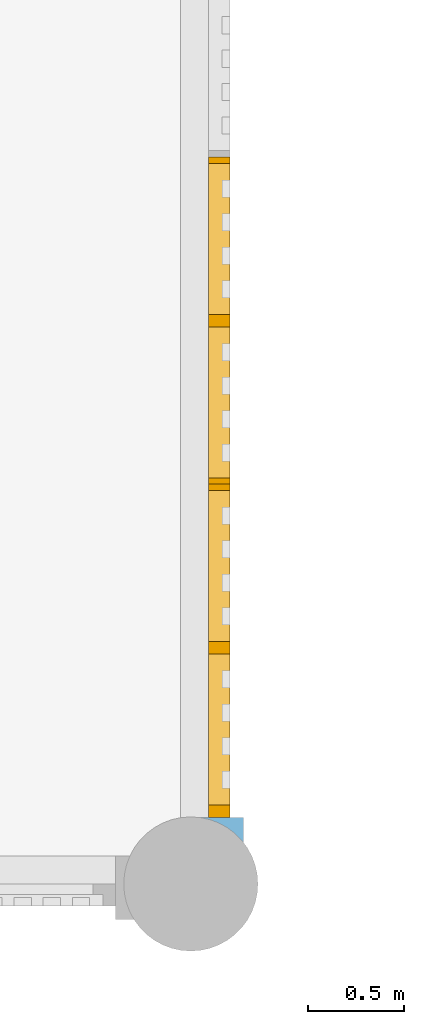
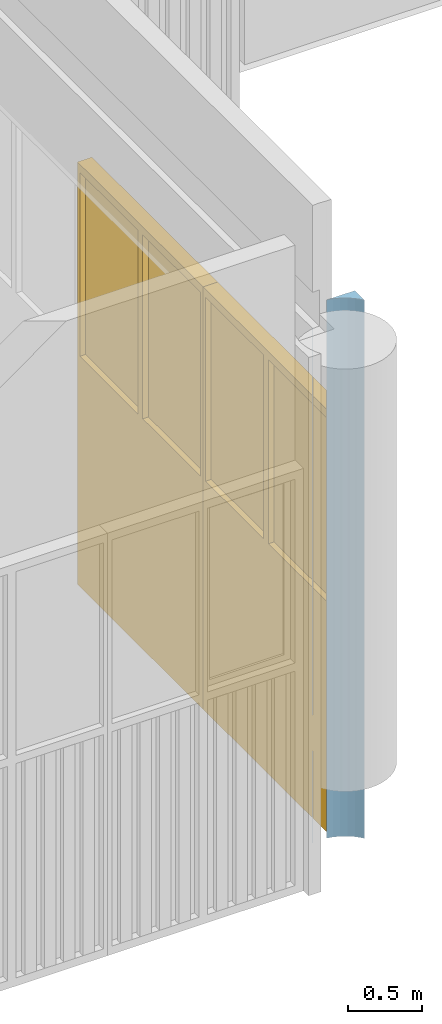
# One storey, part 56 of 117: 2 windows, 3 openings, plus 1 element that does not belong to this part.
"""IFC2X3 building model written with IfcOpenShell, lengths in millimetres."""

import ifcopenshell
import ifcopenshell.guid

model = None  # the IFC model being written
_history = None  # IfcOwnerHistory: only IFC2X3 demands one
_inside = {}  # id of a spatial element -> (the spatial element, [elements in it])
_under = {}  # id of a project, library or spatial element -> (it, [spatial elements below it])
_declared = {}  # id of a project -> (the project, [libraries it declares])
_typed = {}  # id of a type object -> (the type object, [elements of that type])
_made_of = {}  # id of a material, layer set ... -> (it, [elements and type objects made of it])


def new_model(schema):
    """Start an empty IFC model of exactly this schema.

    Asked for "IFC4X3", IfcOpenShell would pick the latest addendum, in which some entities
    have other attributes; the version numbers below select the first issue.
    IFC2X3 requires an IfcOwnerHistory on every rooted entity: one is made here for all.
    """
    global model, _history
    if schema == "IFC4X3":
        model = ifcopenshell.file(schema_version=(4, 3, 0, 0))
    else:
        model = ifcopenshell.file(schema=schema)
    _inside.clear()
    _under.clear()
    _declared.clear()
    _typed.clear()
    _made_of.clear()
    _history = None
    if model.schema == "IFC2X3":
        org = make("IfcOrganization", Name="unknown")
        user = make(
            "IfcPersonAndOrganization",
            ThePerson=make("IfcPerson", FamilyName="unknown"),
            TheOrganization=org,
        )
        app = make(
            "IfcApplication",
            ApplicationDeveloper=org,
            Version="unknown",
            ApplicationFullName="unknown",
            ApplicationIdentifier="unknown",
        )
        _history = make(
            "IfcOwnerHistory",
            OwningUser=user,
            OwningApplication=app,
            ChangeAction="ADDED",
            CreationDate=0,
        )
    return model


def make(cls, **values):
    """One entity of the class cls with the attributes given. An attribute that is None is left unset."""
    return model.create_entity(
        cls, **{name: value for name, value in values.items() if value is not None}
    )


def entity(cls, *values):
    """Any entity or typed value of the class cls, its attributes in the order of the schema. None: left unset."""
    e = model.create_entity(cls)
    for i, value in enumerate(values):
        if value is not None:
            e[i] = value
    return e


def rooted(cls, **values):
    """An entity with a GlobalId (a new one), such as an element, a storey or a relation."""
    return make(cls, GlobalId=ifcopenshell.guid.new(), OwnerHistory=_history, **values)


def si_unit(unit_type, name, prefix=None):
    """IfcSIUnit, for example si_unit("LENGTHUNIT", "METRE", prefix="MILLI")."""
    return make("IfcSIUnit", UnitType=unit_type, Prefix=prefix, Name=name)


def converted_unit(unit_type, name, factor, base, dimensions=None, offset=None):
    """IfcConversionBasedUnit, such as the inch: factor (a typed value) times the base unit."""
    return make(
        "IfcConversionBasedUnit"
        if offset is None
        else "IfcConversionBasedUnitWithOffset",
        ConversionOffset=offset,
        Dimensions=None
        if dimensions is None
        else entity("IfcDimensionalExponents", *dimensions),
        UnitType=unit_type,
        Name=name,
        ConversionFactor=make(
            "IfcMeasureWithUnit", ValueComponent=factor, UnitComponent=base
        ),
    )


def derived_unit(unit_type, elements):
    """IfcDerivedUnit: a product of units, each with its exponent."""
    return make(
        "IfcDerivedUnit",
        Elements=[
            make("IfcDerivedUnitElement", Unit=unit, Exponent=power)
            for unit, power in elements
        ],
        UnitType=unit_type,
    )


def money_unit(currency):
    """IfcMonetaryUnit."""
    return make("IfcMonetaryUnit", Currency=currency)


def assignment(units):
    """IfcUnitAssignment: the units of a project."""
    return None if units is None else make("IfcUnitAssignment", Units=units)


def point(xyz):
    """IfcCartesianPoint."""
    return None if xyz is None else make("IfcCartesianPoint", Coordinates=xyz)


def direction(xyz):
    """IfcDirection."""
    return None if xyz is None else make("IfcDirection", DirectionRatios=xyz)


def frame(location, z_axis=None, x_axis=None):
    """IfcAxis2Placement3D, a coordinate frame: its origin and axes. An axis left out is left unset."""
    return make(
        "IfcAxis2Placement3D",
        Location=point(location),
        Axis=direction(z_axis),
        RefDirection=direction(x_axis),
    )


def origin_with_axes():
    """The frame at (0, 0, 0) with the z axis (0, 0, 1) and the x axis (1, 0, 0) written out."""
    return frame((0.0, 0.0, 0.0), z_axis=(0.0, 0.0, 1.0), x_axis=(1.0, 0.0, 0.0))


def place(relative_to, where):
    """IfcLocalPlacement: puts the frame where relative to a parent placement (None: the world)."""
    return make(
        "IfcLocalPlacement", PlacementRelTo=relative_to, RelativePlacement=where
    )


def context(
    kind, dimensions, precision=None, world=None, true_north=None, identifier=None
):
    """IfcGeometricRepresentationContext, for example the 3D "Model" context."""
    return make(
        "IfcGeometricRepresentationContext",
        ContextIdentifier=identifier,
        ContextType=kind,
        CoordinateSpaceDimension=dimensions,
        Precision=precision,
        WorldCoordinateSystem=world,
        TrueNorth=true_north,
    )


def subcontext(parent, identifier, kind, view, scale=None):
    """IfcGeometricRepresentationSubContext, for example "Body" below "Model"."""
    return make(
        "IfcGeometricRepresentationSubContext",
        ContextIdentifier=identifier,
        ContextType=kind,
        ParentContext=parent,
        TargetScale=scale,
        TargetView=view,
    )


def project(units=None, contexts=None):
    """IfcProject with its units and contexts."""
    return rooted(
        "IfcProject",
        Name="project",
        RepresentationContexts=contexts,
        UnitsInContext=assignment(units),
    )


def spatial(cls, under=None, at=None, **own):
    """A site, building, storey or space (cls), placed at a placement, below another one or the project."""
    s = rooted(cls, ObjectPlacement=at, **own)
    if under is not None:
        _under.setdefault(under.id(), (under, []))[1].append(s)
    return s


def faces_of(points, faces, orient=None, outer=None):
    """IfcFace entities. A face is a list of loops; a loop is a list of indices into points, from 0.

    orient and outer hold one flag for each loop. By default every Orientation is true, the
    first loop of a face is its IfcFaceOuterBound and the others are IfcFaceBound.
    """
    made = []
    for i, loops in enumerate(faces):
        bounds = []
        for j, loop in enumerate(loops):
            is_outer = j == 0 if outer is None else outer[i][j]
            bounds.append(
                make(
                    "IfcFaceOuterBound" if is_outer else "IfcFaceBound",
                    Bound=make("IfcPolyLoop", Polygon=[points[k] for k in loop]),
                    Orientation=True if orient is None else orient[i][j],
                )
            )
        made.append(make("IfcFace", Bounds=bounds))
    return made


def open_shell(faces, orient=None, outer=None):
    """The faces of one IfcOpenShell. surface_model builds it on its shared points."""
    return ("IfcOpenShell", faces, orient, outer)


def faceted_brep(points, faces, orient=None, outer=None, voids=None):
    """IfcFacetedBrep: a solid bounded by flat faces; with voids (closed shells), ...WithVoids."""
    shared = [point(p) for p in points]
    hull = make("IfcClosedShell", CfsFaces=faces_of(shared, faces, orient, outer))
    if voids is None:
        return make("IfcFacetedBrep", Outer=hull)
    return make(
        "IfcFacetedBrepWithVoids",
        Outer=hull,
        Voids=[
            make(cls, CfsFaces=faces_of(shared, fs, o, b)) for cls, fs, o, b in voids
        ],
    )


def surface_model(cls, points, shells):
    """IfcFaceBasedSurfaceModel or IfcShellBasedSurfaceModel (cls): surfaces that need not close."""
    shared = [point(p) for p in points]
    made = [make(c, CfsFaces=faces_of(shared, fs, o, b)) for c, fs, o, b in shells]
    if cls == "IfcFaceBasedSurfaceModel":
        return make(cls, FbsmFaces=made)
    return make(cls, SbsmBoundary=made)


def shape(context_of_items, identifier, shape_type, items):
    """IfcShapeRepresentation: the items that make up one representation, for example the "Body"."""
    return make(
        "IfcShapeRepresentation",
        ContextOfItems=context_of_items,
        RepresentationIdentifier=identifier,
        RepresentationType=shape_type,
        Items=items,
    )


def material(Name=None, Category=None):
    """IfcMaterial."""
    return make("IfcMaterial", Name=Name, Category=Category)


def made_of(thing, what):
    """Note that an element or type object is made of a material, layer set ...; save() writes the relation."""
    if what is not None:
        _made_of.setdefault(what.id(), (what, []))[1].append(thing)
    return thing


def type_object(cls, material=None, **own):
    """A type object (cls), such as IfcWallType, which elements share."""
    return made_of(rooted(cls, **own), material)


def element(
    cls,
    number,
    at=None,
    inside=None,
    cuts=None,
    type_object=None,
    material=None,
    context=None,
    identifier="Body",
    shape_type=None,
    held_by="IfcProductDefinitionShape",
    body=None,
    shapes=None,
    **own,
):
    """One element of the class cls, such as IfcWall. Its Tag is "e" and its number.

    at: its placement. inside: the storey or other place that contains it. cuts: it is an
    opening in that element (IfcRelVoidsElement). A single representation is given by context,
    identifier, shape_type and body (its items); several are given by shapes. held_by: the class
    of the entity that holds the representations. save() writes the other relations.
    """
    e = rooted(cls, Tag="e%d" % number, ObjectPlacement=at, **own)
    if body is not None:
        shapes = [shape(context, identifier, shape_type, body)]
    if shapes is not None:
        e.Representation = make(held_by, Representations=shapes)
    if inside is not None:
        _inside.setdefault(inside.id(), (inside, []))[1].append(e)
    if cuts is not None:
        rooted(
            "IfcRelVoidsElement", RelatingBuildingElement=cuts, RelatedOpeningElement=e
        )
    if type_object is not None:
        _typed.setdefault(type_object.id(), (type_object, []))[1].append(e)
    return made_of(e, material)


def fill(opening, filler):
    """IfcRelFillsElement: the door or window that sits in an opening."""
    return rooted(
        "IfcRelFillsElement",
        RelatingOpeningElement=opening,
        RelatedBuildingElement=filler,
    )


def aggregate(whole, parts):
    """IfcRelAggregates: a whole, such as a stair, and the parts it consists of."""
    return rooted("IfcRelAggregates", RelatingObject=whole, RelatedObjects=parts)


def save(model, path):
    """Write the relations noted so far, then the file.

    IfcRelAggregates (storeys below a building ...), IfcRelContainedInSpatialStructure (elements
    in a storey), IfcRelDefinesByType, IfcRelAssociatesMaterial and IfcRelDeclares: one each for
    every whole, place, type object, material and project.
    """
    for whole, parts in _under.values():
        aggregate(whole, parts)
    for where, things in _inside.values():
        rooted(
            "IfcRelContainedInSpatialStructure",
            RelatedElements=things,
            RelatingStructure=where,
        )
    for kind, things in _typed.values():
        rooted("IfcRelDefinesByType", RelatedObjects=things, RelatingType=kind)
    for what, things in _made_of.values():
        rooted("IfcRelAssociatesMaterial", RelatedObjects=things, RelatingMaterial=what)
    for by, libraries in _declared.values():
        rooted("IfcRelDeclares", RelatingContext=by, RelatedDefinitions=libraries)
    model.write(path)


model = new_model("IFC2X3")

# Units and contexts
model_context = context("Model", 3, precision=0.01, world=origin_with_axes(), true_north=direction((0.0, 1.0)))
body_context = subcontext(model_context, "Body", "Model", "MODEL_VIEW")
ifc_project = project(units=[si_unit("LENGTHUNIT", "METRE", prefix="MILLI"), si_unit("AREAUNIT", "SQUARE_METRE"), si_unit("VOLUMEUNIT", "CUBIC_METRE"), converted_unit("PLANEANGLEUNIT", "DEGREE", entity("IfcPlaneAngleMeasure", 0.0174532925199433), si_unit("PLANEANGLEUNIT", "RADIAN"), dimensions=[0, 0, 0, 0, 0, 0, 0]), money_unit("EUR"), converted_unit("TIMEUNIT", "Year", entity("IfcTimeMeasure", 31557600.0), si_unit("TIMEUNIT", "SECOND"), dimensions=[0, 0, 1, 0, 0, 0, 0]), si_unit("MASSUNIT", "GRAM", prefix="KILO"), si_unit("THERMODYNAMICTEMPERATUREUNIT", "DEGREE_CELSIUS"), si_unit("LUMINOUSINTENSITYUNIT", "LUMEN"), si_unit("ENERGYUNIT", "JOULE", prefix="MEGA"), derived_unit("THERMALCONDUCTANCEUNIT", [(si_unit("POWERUNIT", "WATT"), 1), (si_unit("LENGTHUNIT", "METRE"), -1), (si_unit("THERMODYNAMICTEMPERATUREUNIT", "KELVIN"), -1)]), derived_unit("SPECIFICHEATCAPACITYUNIT", [(si_unit("ENERGYUNIT", "JOULE"), 1), (si_unit("MASSUNIT", "GRAM", prefix="KILO"), -1), (si_unit("THERMODYNAMICTEMPERATUREUNIT", "KELVIN"), -1)]), derived_unit("MASSDENSITYUNIT", [(si_unit("MASSUNIT", "GRAM", prefix="KILO"), 1), (si_unit("VOLUMEUNIT", "CUBIC_METRE"), -1)])], contexts=[model_context])

# Site, building, storey
site_placement = place(None, origin_with_axes())
site = spatial("IfcSite", under=ifc_project, at=site_placement, Name="Site", CompositionType="ELEMENT")
building_placement = place(site_placement, origin_with_axes())
building = spatial("IfcBuilding", under=site, at=building_placement, Name="Naam gebouw", CompositionType="ELEMENT")
storey_placement = place(building_placement, frame((0.0, 0.0, 4150.0), z_axis=(0.0, 0.0, 1.0), x_axis=(1.0, 0.0, 0.0)))
storey = spatial("IfcBuildingStorey", under=building, at=storey_placement, Name="1e verdieping N", CompositionType="ELEMENT", Elevation=4150.0)

# Wall, openings, windows
ifc_material = material(Name="ALG - CONSTRUCTIEF")
wall_type = type_object("IfcWallType", Name="ALG - CONSTRUCTIEF 330", PredefinedType="NOTDEFINED")
wall_placement = place(storey_placement, frame((32345.47026007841, 9677.805369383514, -1060.000000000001), z_axis=(0.0, 0.0, 1.0), x_axis=(0.0, -1.0, 0.0)))
wall = element("IfcWall", 1, at=wall_placement, inside=storey, type_object=wall_type, material=ifc_material, Name="_Wand-x", context=body_context, shape_type="Brep", body=[
    faceted_brep([(6031.855679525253, 1.449080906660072, 0.0), (6031.855679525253, 1.449080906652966, 760.0000000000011), (6032.170907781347, 0.0, 760.0000000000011), (6032.170907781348, 0.0, 0.0), (6031.855679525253, 0.0, 760.0000000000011), (6031.855679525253, 0.0, 0.0)], [[[0, 1, 2, 3]], [[4, 1, 0, 5]], [[1, 4, 2]], [[4, 5, 3, 2]], [[5, 0, 3]]]),
    faceted_brep([(6031.855679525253, 1.449080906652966, 1060.000000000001), (6031.855679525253, 1.449080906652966, 4260.0), (6032.170907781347, 0.0, 4260.0), (6032.170907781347, 0.0, 1060.000000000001), (6031.855679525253, 0.0, 4260.0), (6031.855679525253, 0.0, 1060.000000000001)], [[[0, 1, 2, 3]], [[4, 1, 0, 5]], [[1, 4, 2]], [[4, 5, 3, 2]], [[5, 0, 3]]]),
    faceted_brep([(6031.855679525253, 259.999999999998, 0.0), (6031.855679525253, 107.610398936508, 0.0), (6031.855679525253, 107.610398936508, 4460.000000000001), (6031.855679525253, 259.999999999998, 4460.000000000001), (6031.855679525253, 329.9999999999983, 4460.000000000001), (6031.855679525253, 329.9999999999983, 0.0), (6163.018533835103, 329.9999999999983, 0.0), (6148.380481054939, 319.0420909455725, 0.0), (6113.069386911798, 283.7309968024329, 0.0), (6083.143001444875, 243.7540260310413, 0.0), (6059.210539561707, 199.9249944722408, 0.0), (6041.759197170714, 153.1361348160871, 0.0), (6041.759197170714, 153.1361348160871, 4460.000000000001), (6059.210539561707, 199.9249944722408, 4460.000000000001), (6083.143001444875, 243.7540260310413, 4460.000000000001), (6113.069386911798, 283.7309968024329, 4460.000000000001), (6148.380481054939, 319.0420909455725, 4460.000000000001), (6163.018533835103, 329.9999999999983, 4460.000000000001)], [[[0, 1, 2, 3, 4, 5]], [[1, 0, 5, 6, 7, 8, 9, 10, 11]], [[2, 1, 11, 12]], [[3, 2, 12, 13, 14, 15, 16, 17, 4]], [[4, 17, 6, 5]], [[7, 6, 17, 16]], [[7, 16, 15, 8]], [[8, 15, 14, 9]], [[9, 14, 13, 10]], [[10, 13, 12, 11]]]),
])
opening_1_placement = place(wall_placement, frame((3438.498536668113, 0.0, 0.0), z_axis=(0.0, 0.0, 1.0), x_axis=(1.0, 0.0, 0.0)))
opening_1 = element("IfcOpeningElement", 2, at=opening_1_placement, cuts=wall, Name="_Merk-042", context=body_context, shape_type="Brep", body=[
    faceted_brep([(-853.2857142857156, 259.999999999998, 0.0), (-853.2857142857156, 259.999999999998, 4500.0), (-853.2857142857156, 330.999999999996, 4500.0), (-853.2857142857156, 330.999999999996, 0.0), (-853.2857142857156, -0.9999999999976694, 0.0), (-853.2857142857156, -0.9999999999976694, 4500.0), (853.2857142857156, 259.999999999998, 4500.0), (853.2857142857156, 330.999999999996, 4500.0), (853.2857142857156, -0.9999999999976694, 4500.0), (853.2857142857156, 330.999999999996, 0.0), (853.2857142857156, 259.999999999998, 0.0), (853.2857142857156, -0.9999999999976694, 0.0)], [[[0, 1, 2, 3]], [[1, 0, 4, 5]], [[6, 7, 2, 1, 5, 8]], [[7, 9, 3, 2]], [[0, 3, 9, 10, 11, 4]], [[5, 4, 11, 8]], [[6, 10, 9, 7]], [[10, 6, 8, 11]]]),
])
opening_2_placement = place(wall_placement, frame((5161.819965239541, 0.0, 0.0), z_axis=(0.0, 0.0, 1.0), x_axis=(1.0, 0.0, 0.0)))
opening_2 = element("IfcOpeningElement", 3, at=opening_2_placement, cuts=wall, Name="_Merk-042", context=body_context, shape_type="Brep", body=[
    faceted_brep([(-870.0357142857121, 259.999999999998, 0.0), (-870.0357142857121, 259.999999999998, 4500.0), (-870.0357142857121, 330.999999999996, 4500.0), (-870.0357142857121, 330.999999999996, 0.0), (-870.0357142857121, -0.9999999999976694, 0.0), (-870.0357142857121, -0.9999999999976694, 4500.0), (870.0357142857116, 259.999999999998, 4500.0), (870.0357142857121, 330.999999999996, 4500.0), (870.0357142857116, -0.9999999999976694, 4500.0), (870.0357142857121, 330.999999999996, 0.0), (870.0357142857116, 259.999999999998, 0.0), (870.0357142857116, -0.9999999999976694, 0.0)], [[[0, 1, 2, 3]], [[1, 0, 4, 5]], [[6, 7, 2, 1, 5, 8]], [[7, 9, 3, 2]], [[0, 3, 9, 10, 11, 4]], [[5, 4, 11, 8]], [[6, 10, 9, 7]], [[10, 6, 8, 11]]]),
])
opening_3_placement = place(wall_placement, frame((1288.534250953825, 0.0, 0.0), z_axis=(0.0, 0.0, 1.0), x_axis=(1.0, 0.0, 0.0)))
element("IfcOpeningElement", 4, at=opening_3_placement, cuts=wall, Name="_Merk-041", context=body_context, shape_type="Brep", body=[
    faceted_brep([(-1296.678571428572, 259.999999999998, 0.0), (-1296.678571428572, 259.999999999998, 4499.999999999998), (-1296.678571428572, 330.999999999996, 4499.999999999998), (-1296.678571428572, 330.999999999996, 0.0), (-1296.678571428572, -0.9999999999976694, 0.0), (-1296.678571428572, -0.9999999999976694, 4499.999999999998), (1296.678571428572, 259.999999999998, 4499.999999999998), (1296.678571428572, 330.999999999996, 4499.999999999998), (1296.678571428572, -0.9999999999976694, 4499.999999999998), (1296.678571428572, 330.999999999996, 0.0), (1296.678571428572, 259.999999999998, 0.0), (1296.678571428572, -0.9999999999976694, 0.0)], [[[0, 1, 2, 3]], [[1, 0, 4, 5]], [[6, 7, 2, 1, 5, 8]], [[7, 9, 3, 2]], [[0, 3, 9, 10, 11, 4]], [[5, 4, 11, 8]], [[6, 10, 9, 7]], [[10, 6, 8, 11]]]),
])
window_style = type_object("IfcWindowStyle", Name="R2 bl ol 26", ConstructionType="NOTDEFINED", OperationType="USERDEFINED", ParameterTakesPrecedence=False, Sizeable=False)
window_1_placement = place(opening_1_placement, frame((853.2857142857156, 0.0, 0.0), z_axis=(0.0, 0.0, 1.0), x_axis=(-1.0, 0.0, 0.0)))
window_1 = element("IfcWindow", 5, at=window_1_placement, inside=storey, type_object=window_style, Name="_Merk-042", ObjectType="WINDOW", OverallHeight=3500.0, OverallWidth=1706.57, context=body_context, shape_type="SurfaceModel", body=[
    faceted_brep([(33.50000000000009, -259.999999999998, 1843.000000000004), (33.50000000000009, -146.0000000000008, 1843.000000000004), (33.50000000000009, -146.0000000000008, 1910.000000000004), (33.50000000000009, -259.999999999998, 1910.000000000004), (33.50000000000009, -259.999999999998, 66.99999999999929), (33.50000000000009, -146.0000000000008, 66.99999999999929), (0.0, -146.0000000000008, 66.99999999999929), (0.0, -146.0000000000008, 3433.0), (33.50000000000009, -146.0000000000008, 3433.0), (33.50000000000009, -259.999999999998, 3433.0), (0.0, -259.999999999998, 3433.0), (0.0, -259.999999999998, 66.99999999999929)], [[[0, 1, 2, 3]], [[4, 5, 1, 0]], [[1, 5, 6, 7, 8, 2]], [[3, 2, 8, 9]], [[0, 3, 9, 10, 11, 4]], [[11, 6, 5, 4]], [[10, 7, 6, 11]], [[9, 8, 7, 10]]]),
    faceted_brep([(1673.071428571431, -259.999999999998, 66.99999999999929), (1673.071428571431, -146.0000000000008, 66.99999999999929), (1706.571428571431, -146.0000000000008, 66.99999999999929), (1706.571428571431, -259.999999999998, 66.99999999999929), (1673.071428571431, -259.999999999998, 1843.000000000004), (1673.071428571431, -146.0000000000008, 1843.000000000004), (1673.071428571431, -146.0000000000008, 1910.000000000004), (1673.071428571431, -146.0000000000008, 3433.0), (1706.571428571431, -146.0000000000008, 3433.0), (1706.571428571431, -260.0000000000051, 3433.0), (1673.071428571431, -260.0000000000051, 3433.0), (1673.071428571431, -259.999999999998, 1910.000000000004)], [[[0, 1, 2, 3]], [[4, 5, 1, 0]], [[1, 5, 6, 7, 8, 2]], [[3, 2, 8, 9]], [[0, 3, 9, 10, 11, 4]], [[11, 6, 5, 4]], [[10, 7, 6, 11]], [[9, 8, 7, 10]]]),
    faceted_brep([(819.7857142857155, -259.999999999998, 1910.000000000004), (819.7857142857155, -146.0000000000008, 1910.000000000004), (819.7857142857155, -146.0000000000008, 1843.000000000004), (819.7857142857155, -259.999999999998, 1843.000000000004), (819.7857142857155, -259.999999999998, 3433.0), (819.7857142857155, -146.0000000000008, 3433.0), (886.7857142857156, -146.0000000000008, 3433.0), (886.7857142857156, -146.0000000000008, 1910.000000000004), (886.7857142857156, -146.0000000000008, 1843.000000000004), (886.7857142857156, -146.0000000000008, 66.99999999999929), (819.7857142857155, -146.0000000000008, 66.99999999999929), (819.7857142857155, -259.999999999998, 66.99999999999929), (886.7857142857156, -259.999999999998, 66.99999999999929), (886.7857142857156, -259.999999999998, 1843.000000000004), (886.7857142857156, -259.999999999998, 1910.000000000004), (886.7857142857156, -259.999999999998, 3433.0)], [[[0, 1, 2, 3]], [[4, 5, 1, 0]], [[1, 5, 6, 7, 8, 9, 10, 2]], [[3, 2, 10, 11]], [[0, 3, 11, 12, 13, 14, 15, 4]], [[15, 6, 5, 4]], [[14, 7, 6, 15]], [[13, 8, 7, 14]], [[12, 9, 8, 13]], [[11, 10, 9, 12]]]),
    faceted_brep([(886.7857142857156, -259.999999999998, 1910.000000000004), (886.7857142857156, -146.0000000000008, 1910.000000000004), (886.7857142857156, -146.0000000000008, 1843.000000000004), (886.7857142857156, -259.999999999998, 1843.000000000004), (1673.071428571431, -259.999999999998, 1910.000000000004), (1673.071428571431, -146.0000000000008, 1910.000000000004), (1673.071428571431, -146.0000000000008, 1843.000000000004), (1673.071428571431, -259.999999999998, 1843.000000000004)], [[[0, 1, 2, 3]], [[4, 5, 1, 0]], [[1, 5, 6, 2]], [[3, 2, 6, 7]], [[0, 3, 7, 4]], [[7, 6, 5, 4]]]),
    faceted_brep([(819.7857142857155, -259.999999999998, 1843.000000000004), (819.7857142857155, -146.0000000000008, 1843.000000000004), (819.7857142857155, -146.0000000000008, 1910.000000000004), (819.7857142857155, -259.999999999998, 1910.000000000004), (33.50000000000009, -259.999999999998, 1843.000000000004), (33.50000000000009, -146.0000000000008, 1843.000000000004), (33.50000000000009, -146.0000000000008, 1910.000000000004), (33.50000000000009, -259.999999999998, 1910.000000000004)], [[[0, 1, 2, 3]], [[4, 5, 1, 0]], [[1, 5, 6, 2]], [[3, 2, 6, 7]], [[0, 3, 7, 4]], [[7, 6, 5, 4]]]),
    faceted_brep([(33.50000000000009, -259.999999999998, 66.99999999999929), (33.50000000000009, -146.0000000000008, 66.99999999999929), (0.0, -146.0000000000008, 66.99999999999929), (0.0, -259.999999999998, 66.99999999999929), (819.7857142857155, -259.999999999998, 66.99999999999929), (819.7857142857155, -146.0000000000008, 66.99999999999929), (886.7857142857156, -146.0000000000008, 66.99999999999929), (1673.071428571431, -146.0000000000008, 66.99999999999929), (1706.571428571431, -146.0000000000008, 66.99999999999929), (1706.571428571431, -146.0000000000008, 0.0), (0.0, -146.0000000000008, 0.0), (0.0, -259.999999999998, 0.0), (1706.571428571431, -259.999999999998, 0.0), (1706.571428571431, -259.999999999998, 66.99999999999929), (1673.071428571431, -259.999999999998, 66.99999999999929), (886.7857142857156, -259.999999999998, 66.99999999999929)], [[[0, 1, 2, 3]], [[4, 5, 1, 0]], [[1, 5, 6, 7, 8, 9, 10, 2]], [[3, 2, 10, 11]], [[0, 3, 11, 12, 13, 14, 15, 4]], [[15, 6, 5, 4]], [[14, 7, 6, 15]], [[13, 8, 7, 14]], [[12, 9, 8, 13]], [[11, 10, 9, 12]]]),
    faceted_brep([(819.7857142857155, -259.999999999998, 3433.0), (819.7857142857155, -146.0000000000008, 3433.0), (886.7857142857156, -146.0000000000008, 3433.0), (886.7857142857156, -259.999999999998, 3433.0), (33.50000000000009, -259.999999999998, 3433.0), (33.50000000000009, -146.0000000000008, 3433.0), (0.0, -146.0000000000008, 3433.0), (0.0, -146.0000000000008, 3500.0), (1706.571428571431, -146.0000000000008, 3500.0), (1706.571428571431, -146.0000000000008, 3433.0), (1673.071428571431, -146.0000000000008, 3433.0), (1673.071428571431, -260.0000000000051, 3433.0), (1706.571428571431, -260.0000000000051, 3433.0), (1706.571428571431, -260.0000000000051, 3500.0), (0.0, -259.999999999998, 3500.0), (0.0, -259.999999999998, 3433.0)], [[[0, 1, 2, 3]], [[4, 5, 1, 0]], [[1, 5, 6, 7, 8, 9, 10, 2]], [[3, 2, 10, 11]], [[0, 3, 11, 12, 13, 14, 15, 4]], [[15, 6, 5, 4]], [[14, 7, 6, 15]], [[13, 8, 7, 14]], [[12, 9, 8, 13]], [[11, 10, 9, 12]]]),
    surface_model("IfcShellBasedSurfaceModel", [(33.50000000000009, -210.0000000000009, 1910.000000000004), (819.7857142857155, -210.0000000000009, 1910.000000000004), (819.7857142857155, -210.0000000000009, 3433.0), (33.50000000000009, -210.0000000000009, 3433.0)], [open_shell([[[0, 1, 2, 3]]])]),
    surface_model("IfcShellBasedSurfaceModel", [(33.50000000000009, -189.9999999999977, 1910.000000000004), (33.50000000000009, -189.9999999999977, 3433.0), (819.7857142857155, -190.0000000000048, 3433.0), (819.7857142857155, -189.9999999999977, 1910.000000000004)], [open_shell([[[0, 1, 2, 3]]])]),
    surface_model("IfcShellBasedSurfaceModel", [(886.7857142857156, -210.0000000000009, 1910.000000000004), (1673.071428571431, -210.0000000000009, 1910.000000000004), (1673.071428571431, -210.0000000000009, 3433.0), (886.7857142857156, -210.0000000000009, 3433.0)], [open_shell([[[0, 1, 2, 3]]])]),
    surface_model("IfcShellBasedSurfaceModel", [(886.7857142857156, -189.9999999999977, 1910.000000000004), (886.7857142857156, -190.0000000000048, 3433.0), (1673.071428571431, -190.0000000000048, 3433.0), (1673.071428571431, -190.0000000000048, 1910.000000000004)], [open_shell([[[0, 1, 2, 3]]])]),
    faceted_brep([(33.50000000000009, -200.0000000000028, 66.99999999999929), (33.50000000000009, -146.0000000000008, 66.99999999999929), (819.7857142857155, -146.0000000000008, 66.99999999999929), (819.7857142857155, -200.0000000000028, 66.99999999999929), (33.50000000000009, -200.0000000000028, 1843.000000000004), (33.50000000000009, -146.0000000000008, 1843.000000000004), (819.7857142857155, -146.0000000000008, 1843.000000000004), (819.7857142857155, -200.0000000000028, 1843.000000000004)], [[[0, 1, 2, 3]], [[4, 5, 1, 0]], [[1, 5, 6, 2]], [[3, 2, 6, 7]], [[0, 3, 7, 4]], [[7, 6, 5, 4]]]),
    faceted_brep([(886.7857142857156, -200.0000000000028, 66.99999999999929), (886.7857142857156, -146.0000000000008, 66.99999999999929), (1673.071428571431, -146.0000000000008, 66.99999999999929), (1673.071428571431, -200.0000000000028, 66.99999999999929), (886.7857142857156, -200.0000000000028, 1843.000000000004), (886.7857142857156, -146.0000000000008, 1843.000000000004), (1673.071428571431, -146.0000000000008, 1843.000000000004), (1673.071428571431, -200.0000000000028, 1843.000000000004)], [[[0, 1, 2, 3]], [[4, 5, 1, 0]], [[1, 5, 6, 2]], [[3, 2, 6, 7]], [[0, 3, 7, 4]], [[7, 6, 5, 4]]]),
])
fill(opening_1, window_1)
window_2_placement = place(opening_2_placement, frame((870.0357142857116, 0.0, 0.0), z_axis=(0.0, 0.0, 1.0), x_axis=(-1.0, 0.0, 0.0)))
window_2 = element("IfcWindow", 6, at=window_2_placement, inside=storey, type_object=window_style, Name="_Merk-042", ObjectType="WINDOW", OverallHeight=3500.0, OverallWidth=1740.07, context=body_context, shape_type="SurfaceModel", body=[
    faceted_brep([(66.99999999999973, -259.999999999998, 1843.000000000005), (66.99999999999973, -146.0000000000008, 1843.000000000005), (66.99999999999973, -146.0000000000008, 1910.000000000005), (66.99999999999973, -259.999999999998, 1910.000000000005), (66.99999999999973, -259.999999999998, 66.99999999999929), (66.99999999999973, -146.0000000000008, 66.99999999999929), (0.0, -146.0000000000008, 66.99999999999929), (0.0, -146.0000000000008, 3433.0), (66.99999999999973, -146.0000000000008, 3433.0), (66.99999999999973, -259.999999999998, 3433.0), (0.0, -259.999999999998, 3433.0), (0.0, -259.999999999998, 66.99999999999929)], [[[0, 1, 2, 3]], [[4, 5, 1, 0]], [[1, 5, 6, 7, 8, 2]], [[3, 2, 8, 9]], [[0, 3, 9, 10, 11, 4]], [[11, 6, 5, 4]], [[10, 7, 6, 11]], [[9, 8, 7, 10]]]),
    faceted_brep([(1706.571428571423, -259.999999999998, 66.99999999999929), (1706.571428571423, -146.0000000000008, 66.99999999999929), (1740.071428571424, -146.0000000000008, 66.99999999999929), (1740.071428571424, -259.999999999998, 66.99999999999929), (1706.571428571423, -259.999999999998, 1843.000000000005), (1706.571428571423, -146.0000000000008, 1843.000000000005), (1706.571428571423, -146.0000000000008, 1910.000000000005), (1706.571428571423, -146.0000000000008, 3433.0), (1740.071428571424, -146.0000000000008, 3433.0), (1740.071428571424, -260.0000000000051, 3433.0), (1706.571428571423, -260.0000000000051, 3433.0), (1706.571428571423, -259.999999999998, 1910.000000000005)], [[[0, 1, 2, 3]], [[4, 5, 1, 0]], [[1, 5, 6, 7, 8, 2]], [[3, 2, 8, 9]], [[0, 3, 9, 10, 11, 4]], [[11, 6, 5, 4]], [[10, 7, 6, 11]], [[9, 8, 7, 10]]]),
    faceted_brep([(853.2857142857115, -259.999999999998, 1910.000000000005), (853.2857142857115, -146.0000000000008, 1910.000000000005), (853.2857142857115, -146.0000000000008, 1843.000000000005), (853.2857142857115, -259.999999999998, 1843.000000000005), (853.2857142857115, -259.999999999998, 3433.0), (853.2857142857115, -146.0000000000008, 3433.0), (920.2857142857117, -146.0000000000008, 3433.0), (920.2857142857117, -146.0000000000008, 1910.000000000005), (920.2857142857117, -146.0000000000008, 1843.000000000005), (920.2857142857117, -146.0000000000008, 66.99999999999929), (853.2857142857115, -146.0000000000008, 66.99999999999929), (853.2857142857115, -259.999999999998, 66.99999999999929), (920.2857142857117, -259.999999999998, 66.99999999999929), (920.2857142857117, -259.999999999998, 1843.000000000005), (920.2857142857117, -259.999999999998, 1910.000000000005), (920.2857142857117, -259.999999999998, 3433.0)], [[[0, 1, 2, 3]], [[4, 5, 1, 0]], [[1, 5, 6, 7, 8, 9, 10, 2]], [[3, 2, 10, 11]], [[0, 3, 11, 12, 13, 14, 15, 4]], [[15, 6, 5, 4]], [[14, 7, 6, 15]], [[13, 8, 7, 14]], [[12, 9, 8, 13]], [[11, 10, 9, 12]]]),
    faceted_brep([(920.2857142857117, -259.999999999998, 1910.000000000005), (920.2857142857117, -146.0000000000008, 1910.000000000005), (920.2857142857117, -146.0000000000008, 1843.000000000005), (920.2857142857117, -259.999999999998, 1843.000000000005), (1706.571428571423, -259.999999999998, 1910.000000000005), (1706.571428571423, -146.0000000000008, 1910.000000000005), (1706.571428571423, -146.0000000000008, 1843.000000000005), (1706.571428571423, -259.999999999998, 1843.000000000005)], [[[0, 1, 2, 3]], [[4, 5, 1, 0]], [[1, 5, 6, 2]], [[3, 2, 6, 7]], [[0, 3, 7, 4]], [[7, 6, 5, 4]]]),
    faceted_brep([(853.2857142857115, -259.999999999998, 1843.000000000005), (853.2857142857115, -146.0000000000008, 1843.000000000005), (853.2857142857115, -146.0000000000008, 1910.000000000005), (853.2857142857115, -259.999999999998, 1910.000000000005), (66.99999999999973, -259.999999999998, 1843.000000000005), (66.99999999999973, -146.0000000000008, 1843.000000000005), (66.99999999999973, -146.0000000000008, 1910.000000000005), (66.99999999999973, -259.999999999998, 1910.000000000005)], [[[0, 1, 2, 3]], [[4, 5, 1, 0]], [[1, 5, 6, 2]], [[3, 2, 6, 7]], [[0, 3, 7, 4]], [[7, 6, 5, 4]]]),
    faceted_brep([(66.99999999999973, -259.999999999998, 66.99999999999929), (66.99999999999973, -146.0000000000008, 66.99999999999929), (0.0, -146.0000000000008, 66.99999999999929), (0.0, -259.999999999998, 66.99999999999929), (853.2857142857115, -259.999999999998, 66.99999999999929), (853.2857142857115, -146.0000000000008, 66.99999999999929), (920.2857142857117, -146.0000000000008, 66.99999999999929), (1706.571428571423, -146.0000000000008, 66.99999999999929), (1740.071428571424, -146.0000000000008, 66.99999999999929), (1740.071428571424, -146.0000000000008, 0.0), (0.0, -146.0000000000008, 0.0), (0.0, -259.999999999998, 0.0), (1740.071428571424, -259.999999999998, 0.0), (1740.071428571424, -259.999999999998, 66.99999999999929), (1706.571428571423, -259.999999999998, 66.99999999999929), (920.2857142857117, -259.999999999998, 66.99999999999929)], [[[0, 1, 2, 3]], [[4, 5, 1, 0]], [[1, 5, 6, 7, 8, 9, 10, 2]], [[3, 2, 10, 11]], [[0, 3, 11, 12, 13, 14, 15, 4]], [[15, 6, 5, 4]], [[14, 7, 6, 15]], [[13, 8, 7, 14]], [[12, 9, 8, 13]], [[11, 10, 9, 12]]]),
    faceted_brep([(853.2857142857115, -259.999999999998, 3433.0), (853.2857142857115, -146.0000000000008, 3433.0), (920.2857142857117, -146.0000000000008, 3433.0), (920.2857142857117, -259.999999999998, 3433.0), (66.99999999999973, -259.999999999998, 3433.0), (66.99999999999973, -146.0000000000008, 3433.0), (0.0, -146.0000000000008, 3433.0), (0.0, -146.0000000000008, 3500.0), (1740.071428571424, -146.0000000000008, 3500.0), (1740.071428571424, -146.0000000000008, 3433.0), (1706.571428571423, -146.0000000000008, 3433.0), (1706.571428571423, -260.0000000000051, 3433.0), (1740.071428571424, -260.0000000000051, 3433.0), (1740.071428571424, -260.0000000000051, 3500.0), (0.0, -259.999999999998, 3500.0), (0.0, -259.999999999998, 3433.0)], [[[0, 1, 2, 3]], [[4, 5, 1, 0]], [[1, 5, 6, 7, 8, 9, 10, 2]], [[3, 2, 10, 11]], [[0, 3, 11, 12, 13, 14, 15, 4]], [[15, 6, 5, 4]], [[14, 7, 6, 15]], [[13, 8, 7, 14]], [[12, 9, 8, 13]], [[11, 10, 9, 12]]]),
    surface_model("IfcShellBasedSurfaceModel", [(66.99999999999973, -210.0000000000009, 1910.000000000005), (853.2857142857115, -210.0000000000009, 1910.000000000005), (853.2857142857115, -210.0000000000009, 3433.0), (66.99999999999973, -210.0000000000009, 3433.0)], [open_shell([[[0, 1, 2, 3]]])]),
    surface_model("IfcShellBasedSurfaceModel", [(66.99999999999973, -189.9999999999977, 1910.000000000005), (66.99999999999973, -189.9999999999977, 3433.0), (853.2857142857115, -190.0000000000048, 3433.0), (853.2857142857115, -189.9999999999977, 1910.000000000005)], [open_shell([[[0, 1, 2, 3]]])]),
    surface_model("IfcShellBasedSurfaceModel", [(920.2857142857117, -210.0000000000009, 1910.000000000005), (1706.571428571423, -210.0000000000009, 1910.000000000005), (1706.571428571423, -210.0000000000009, 3433.0), (920.2857142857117, -210.0000000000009, 3433.0)], [open_shell([[[0, 1, 2, 3]]])]),
    surface_model("IfcShellBasedSurfaceModel", [(920.2857142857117, -189.9999999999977, 1910.000000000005), (920.2857142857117, -190.0000000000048, 3433.0), (1706.571428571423, -190.0000000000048, 3433.0), (1706.571428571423, -190.0000000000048, 1910.000000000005)], [open_shell([[[0, 1, 2, 3]]])]),
    faceted_brep([(66.99999999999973, -200.0000000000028, 66.99999999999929), (66.99999999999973, -146.0000000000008, 66.99999999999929), (853.2857142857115, -146.0000000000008, 66.99999999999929), (853.2857142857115, -200.0000000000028, 66.99999999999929), (66.99999999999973, -200.0000000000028, 1843.000000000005), (66.99999999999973, -146.0000000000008, 1843.000000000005), (853.2857142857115, -146.0000000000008, 1843.000000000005), (853.2857142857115, -200.0000000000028, 1843.000000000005)], [[[0, 1, 2, 3]], [[4, 5, 1, 0]], [[1, 5, 6, 2]], [[3, 2, 6, 7]], [[0, 3, 7, 4]], [[7, 6, 5, 4]]]),
    faceted_brep([(920.2857142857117, -200.0000000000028, 66.99999999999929), (920.2857142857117, -146.0000000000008, 66.99999999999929), (1706.571428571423, -146.0000000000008, 66.99999999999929), (1706.571428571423, -200.0000000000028, 66.99999999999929), (920.2857142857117, -200.0000000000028, 1843.000000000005), (920.2857142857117, -146.0000000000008, 1843.000000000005), (1706.571428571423, -146.0000000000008, 1843.000000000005), (1706.571428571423, -200.0000000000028, 1843.000000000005)], [[[0, 1, 2, 3]], [[4, 5, 1, 0]], [[1, 5, 6, 2]], [[3, 2, 6, 7]], [[0, 3, 7, 4]], [[7, 6, 5, 4]]]),
])
fill(opening_2, window_2)

save(model, "model.ifc")
